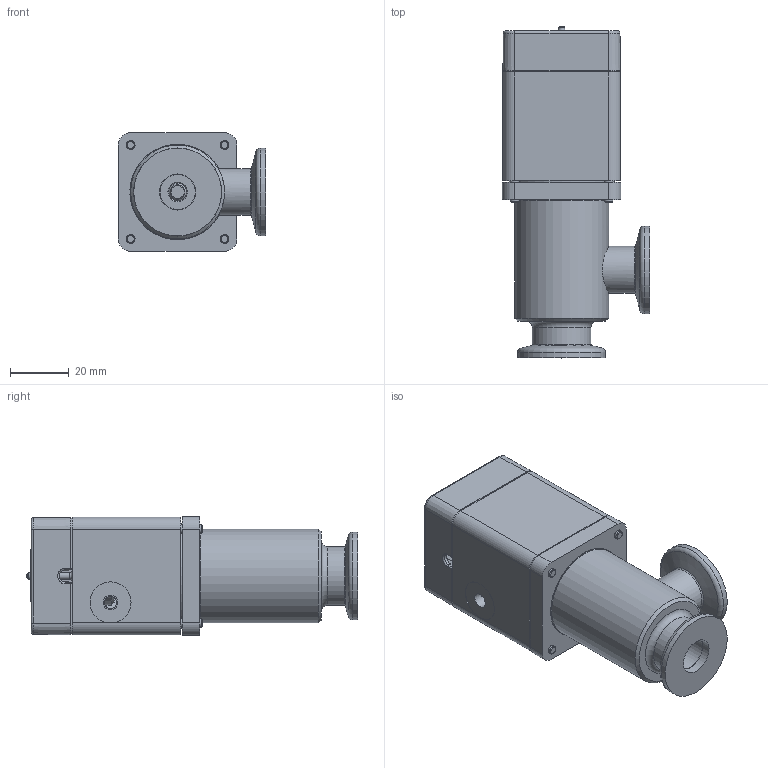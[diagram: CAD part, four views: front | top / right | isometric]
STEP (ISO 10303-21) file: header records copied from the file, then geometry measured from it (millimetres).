
FILE_DESCRIPTION(/* description */ (''),/* implementation_level */ '2;1');
FILE_NAME(/* name */ '1000538488_203.stp',/* time_stamp */ '2013-09-17T13:49:41+02:00',/* author */ (''),/* organization */ (''),/* preprocessor_version */ 'ST-DEVELOPER v11',/* originating_system */ 'SIEMENS PLM Software NX 7.5',/* authorisation */ '');
FILE_SCHEMA (('AP203_CONFIGURATION_CONTROLLED_3D_DESIGN_OF_MECHANICAL_PARTS_AND_ASSEMBLIES_MIM_LF'));
Length unit declared in the file: millimetre
Products named in the file (11): 233364; 236204_1.1; 346126.1; 245708.5; 346129.1; 244168.6; 243880.7; 244224.1; 239982.4; 346132.2; 709944
Assembly tree (14 placements, depth 3):
  709944
    346132.2
      346129.1
      245708.5
      346126.1
    244224.1  x4
    239982.4
      236204_1.1  x2
      233364
    243880.7
    244168.6
Bounding box: 50.2 x 113.1 x 40.4 mm (x, y, z)
Volume: 69822.3 mm3; surface area: 48246.9 mm2
Topology: 20 solids, 20 shells, 516 faces, 1252 edges, 814 vertices
Faces by surface type: plane 281, cylinder 129, cone 66, bspline 25, torus 15
Full cylindrical faces by diameter (mm): 2 x1, 2.3 x1, 2.36 x4, 2.4 x4, 2.5 x3, 3 x19, 3.4 x4, 4 x2, 4.2 x1, 4.7 x3, 4.8 x1, 5 x2, 5.5 x4, 5.6 x2, 6 x4, 6.013 x2, 6.5 x4, 8.85 x1, 12 x3, 12.3 x2, 14 x1, 16 x1, 17 x1, 20 x2, 28 x1, 29.896 x1, 29.92 x1, 30.08 x1, 32 x1, 32.35 x1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
Entity records: 14679 total; most frequent: CARTESIAN_POINT 3100, DIRECTION 2095, ORIENTED_EDGE 1902, EDGE_CURVE 951, AXIS2_PLACEMENT_3D 774, VERTEX_POINT 695, EDGE_LOOP 646, LINE 547
